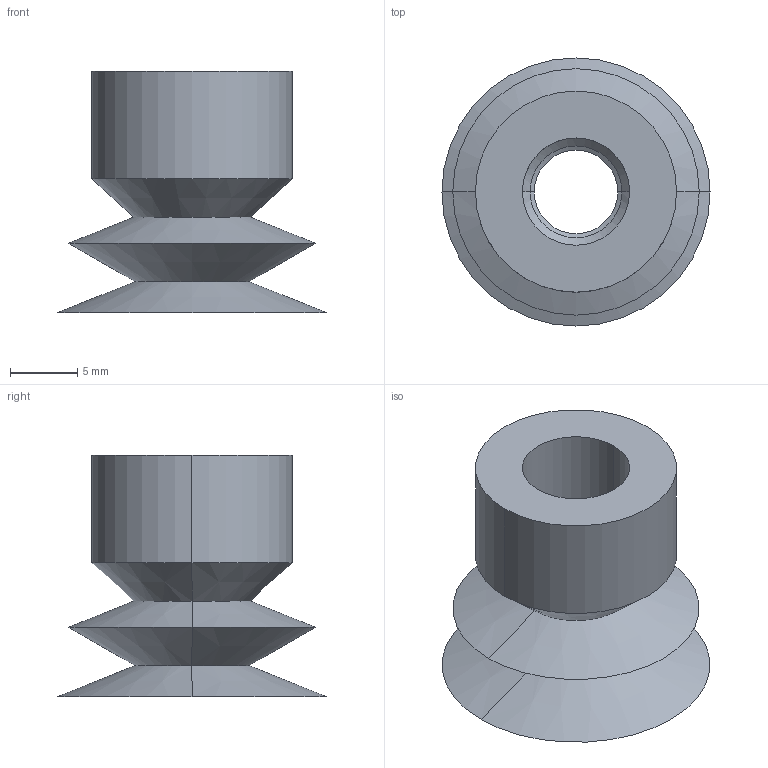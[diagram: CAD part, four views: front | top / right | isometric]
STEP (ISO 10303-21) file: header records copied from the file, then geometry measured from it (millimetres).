
FILE_DESCRIPTION (( 'STEP AP214' ), '1' );
FILE_NAME ('VSH2-M20.STEP', '2019-11-14T00:39:04', ( '微软用户' ), ( '微软中国' ), 'SwSTEP 2.0', 'SolidWorks 2016', '' );
FILE_SCHEMA (( 'AUTOMOTIVE_DESIGN' ));
Length unit declared in the file: millimetre
Products named in the file (1): VSH2-M20
Bounding box: 20 x 20 x 18 mm (x, y, z)
Volume: 1262.7 mm3; surface area: 2567 mm2
Topology: 1 solids, 1 shells, 28 faces, 56 edges, 32 vertices
Faces by surface type: cone 16, cylinder 8, plane 4
Entity records: 762 total; most frequent: DIRECTION 146, CARTESIAN_POINT 117, ORIENTED_EDGE 112, AXIS2_PLACEMENT_3D 61, EDGE_CURVE 56, EDGE_LOOP 32, CIRCLE 32, VERTEX_POINT 32
